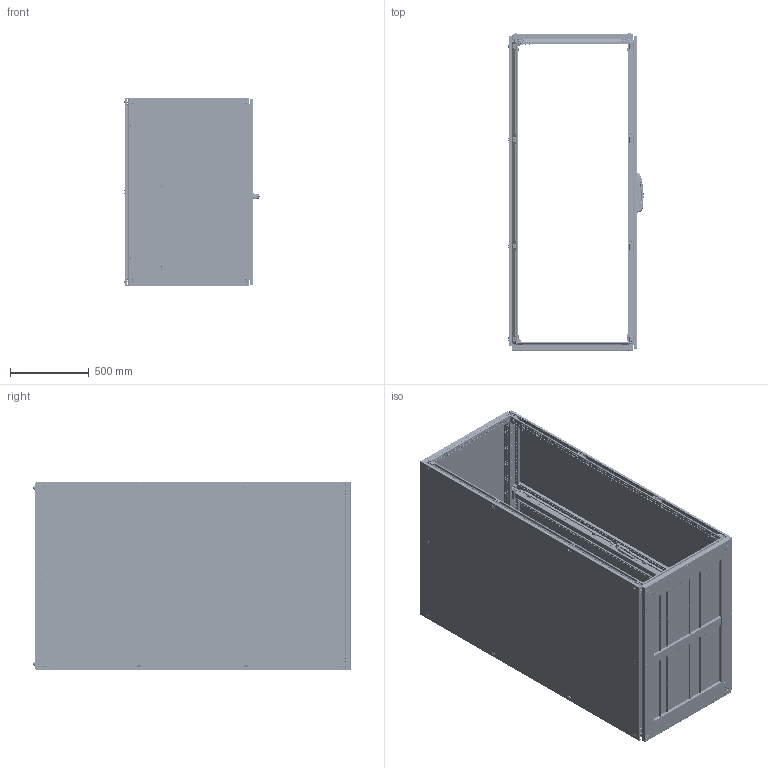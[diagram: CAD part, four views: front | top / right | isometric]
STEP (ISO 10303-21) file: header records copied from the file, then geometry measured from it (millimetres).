
FILE_DESCRIPTION (( 'STEP AP214' ), '1' );
FILE_NAME ('T201208D - 2000 H X 1200 W X 800 D.STEP', '2026-09-14T08:37:05', ( '' ), ( '' ), 'SwSTEP 2.0', 'SolidWorks 2025', '' );
FILE_SCHEMA (( 'AUTOMOTIVE_DESIGN' ));
Length unit declared in the file: millimetre
Products named in the file (124): k2-30 2018-2; MP 14.0007 M6 PLASTİK HAVSA; Front Name Slat 1_1200 SAG; TEOS REAR PANEL_ 703.220 1200X2000; YP1189-2-M6_1_1 2018-2; 03-TABAN SACI U1 04-2012_PP 12.0038 - 1200-200; whell; Teos-Neo MP Durdurucu; 1200x2000 casm; 03-TABAN SACI SURGU_PP 12.0033 - 1200; TEOS FRAME_1200 gen; flat head screw_am_B18.6.7M - M6 x 1.0 x 30 Type I Cross Recessed FHMS --30N; MP 11.0140 TEOS ALUMINIUM CORNER; k2-33 2018-2; b18.2.3.1m - hex cap screw, m12 x 1.75 x 30 --30n_B18.2.3.1M - Hex cap screw, M12 x 1.75 x 30 --30N; Teos-Neo MP Durdurucu Destek; Teos-Neo Mounting Plate Left Bracket Mounting_Standart Pozisyon; socket head cap screw_am_B18.3.1M - 8 x 1.25 x 35 Hex SHCS -- 35NHX; Lock Hinge_2000 cift; PM 25.0042 HINGE BRACKET WITH CAGE NUT TOP - MIDDLE; copper hinge cover; MP 25.0030 TEOS YAN VE ARKA KAPAK BAĞLANTI SACI ALT - ÜST; MP 18.7631 204 handle REV04 tekpan logo; PM 25.0041 HINGE BRACKET WITH CAGE NUT TOP - BOTTOM; Teos-Neo Mounting Plate Right Bracket Mounting_Standart Pozisyon; whell washer; MP 18.7631 Arka Kapak; MP 25.0031 TEOS YAN VE ARKA KAPAK BAĞLANTI SACI ORTA; 1200X2000+100X600 TEOS NEO Whell; torque nut 01_iso1_ISO 7040-M6-N; TEOS-NEO MP Right Support Plastic Wedge; MirrorMP 11.0188 DAYAMA VE KİLTLEME AL10.2016; double door inside mechanism; Teos-Neo MP Sol Braketi; 36 2018-2; pan cross head_am1_B18.6.7M - M5 x 0.8 x 10 Type I Cross Recessed PHMS --10N; on Kapi 2 mm sol V DAYAMA LI REV 05-2017 2018-2_PP 17.1066 1200x2000; MP 11.0221 TEOS PIN 12.2018; B18.6.7M - M6 x 1.0 x 10 Type I Cross Recessed FHMS --10N_B18.6.7M - M6 x 1.0 x 10 Type I Cross Recessed FHMS --10N; M8 KAFES SOMUN_m8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
Assembly tree (400 placements, depth 5):
  36 2018-2
  T201208D -  2000 H X 1200 W X 800 D
    TEOS FRAME ASSEMBLY_1200x2000x800
      TEOS FRAME_2000   x4
      TEOS FRAME_800  x4
      TEOS FRAME_1200 gen  x4
      L CORNER SUPPORT  x8
      CORNER BRACKET  x15
      CORNER BRACKET 2
      MP 11.0140 TEOS ALUMINIUM CORNER  x8
      M5 SQUARE WASHER  x16
      Riveted Base_701.280-120x80 ALT
        Base width with rivet_PP 12.0021 - 1200  x2
        Base depth with rivet_PP 12.0026 - 800  x2
        03-KOSE PUNT_PP 12.0027
        03-KOSE PUNT
        Mirror03-KOSE PUNT  x2
        03taban derinlik orta  percinli 04-2012_PP 16.0120 -800
        03-TABAN SACI SURGU_PP 12.0033 - 1200  x4
        03-TABAN SACI U1 04-2012_PP 12.0043 - 1200-75  x2
        03-TABAN SACI U1 04-2012_PP 12.0038 - 1200-200  x2
        mp aLT DAYAMA_PP 12.0094 - 800
        mp aLT DAYAMA_800 dekra
      socket button head cap screw_am1_B18.3.4M - 8 x 1.25 x 16 SBHCS --N  x55
      pan cross head_am1_B18.6.7M - M5 x 0.8 x 10 Type I Cross Recessed PHMS --10N  x23
      B18.3.5M - 5 x 0.8 x 10 Socket FCHS  -- 10N_B18.3.5M - 5 x 0.8 x 10 Socket FCHS  -- 10N  x16
      PM 25.0039 WITH CAGE NUT TEOS SIDE AND REAR PANEL BRACKET TOP - BOTTOM  x4
        MP 25.0030 TEOS YAN VE ARKA KAPAK BAĞLANTI SACI ALT - ÜST
        M6 KAFES SOMU2015 2025
          kafes somun kafes 2025
          somu 2025
      PM 25.0040 WITH CAGE NUT TEOS SIDE AND REAR PANEL BRACKET - MIDDLE  x4
        MP 25.0031 TEOS YAN VE ARKA KAPAK BAĞLANTI SACI ORTA
        M6 KAFES SOMU2015 2025
          kafes somun kafes 2025
          somu 2025
      PM 25.0041 HINGE BRACKET WITH CAGE NUT TOP - BOTTOM  x4
        MP 25.0026 TEOS MENTEŞE ALT - ÜST
        M6 KAFES SOMU
          kafes somun kafes
          somu
      PM 25.0042 HINGE BRACKET WITH CAGE NUT TOP - MIDDLE  x4
        MP 25.0027 TEOS MENTEŞE ORTA
        M6 KAFES SOMU2015 2025
          kafes somun kafes 2025
          somu 2025
      03-TABAN SACI U1 04-2012_PP 12.0038 - 1200-200  x2
    Teos Top Cover 2_PP 13.0023 1200x800
    TEOS REAR PANEL_ 703.220 1200X2000
      Teos Rear Panel Dkp 1.5 mm_PP 12.0089 1200x2000
      PB 14.0004 M6 Countersunk Plastic Screw Holder  x10
        MP 14.0007 M6 PLASTİK HAVSA
        flat head screw_am_B18.6.7M - M6 x 1.0 x 30 Type I Cross Recessed FHMS --30N
    Teos-Neo 3mm MOUNTING PLATE_TEOS MP 1200x2000
      Teos - Neo Mounting Plate - 3 mm_PP 12.0110 1200x2000
      MP 11.0195 Mounting Plate M8 Wedge  x2
      socket head cap screw_am_B18.3.1M - 8 x 1.25 x 35 Hex SHCS -- 35NHX  x2
      Teos-Neo Mounting Plate Right Bracket Mounting_Standart Pozisyon
        Teos-Neo MP Sağ Braketi
        pan head cross recess screw_iso_ISO 7045 - M5 x 10 - Z --- 10C  x2
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Bounding box: 859.22 x 2018.08 x 1201.34 mm (x, y, z)
Volume: 30545705.8 mm3; surface area: 29615118.1 mm2
Topology: 450 solids, 490 shells, 57108 faces, 153557 edges, 96993 vertices
Faces by surface type: plane 32941, cylinder 17966, bspline 2826, cone 1545, torus 1063, sphere 767
Entity records: 745532 total; most frequent: CARTESIAN_POINT 329095, ORIENTED_EDGE 88644, DIRECTION 80842, EDGE_CURVE 44322, VERTEX_POINT 28221, AXIS2_PLACEMENT_3D 27166, VECTOR 26510, LINE 26510
